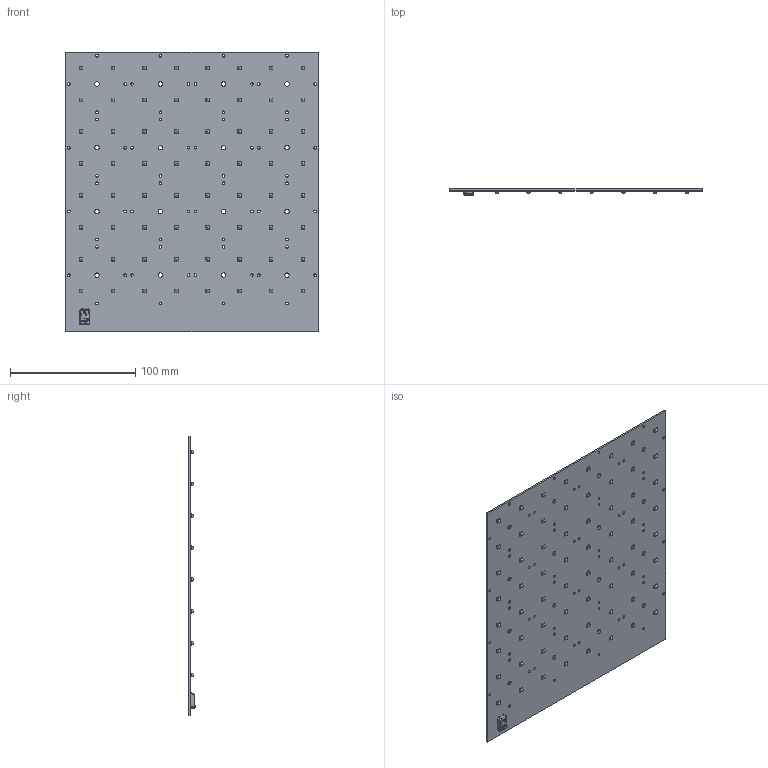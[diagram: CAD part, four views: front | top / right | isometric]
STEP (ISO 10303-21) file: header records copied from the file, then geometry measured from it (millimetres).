
FILE_DESCRIPTION(/* description */ ('Unknown'),/* implementation_level */ '2;1');
FILE_NAME(/* name */ 'RecLED 224x202mm 15200lm 8x8 Opt G1 sh-000 2019-09-06',/* time_stamp */ '2019-09-06T12:35:39+02:00',/* author */ ('Unknown'),/* organization */ ('Unknown'),/* preprocessor_version */ 'ST-DEVELOPER v16.7',/* originating_system */ 'DEX',/* authorisation */ $);
FILE_SCHEMA (('AUTOMOTIVE_DESIGN { 1 0 10303 214 3 1 1 }','AUTOMOTIVE_DESIGN {1 0 10303 214 3 1 1}'));
Products named in the file (1): RecLED 224x202mm 15200lm 8x8 Opt G1 sh-000 2019-09-06
Bounding box: 201 x 4.95 x 223 mm (x, y, z)
Volume: 67651.9 mm3; surface area: 92819.2 mm2
Topology: 1 solids, 1 shells, 2921 faces, 8034 edges, 5242 vertices
Faces by surface type: plane 1381, cylinder 1278, torus 139, bspline 87, cone 26, sphere 10
Full cylindrical faces by diameter (mm): 2.1 x64, 3.5 x16
Entity records: 114070 total; most frequent: CARTESIAN_POINT 19084, DIRECTION 15356, ORIENTED_EDGE 15198, EDGE_CURVE 7599, AXIS2_PLACEMENT_3D 5248, VERTEX_POINT 5093, LINE 4860, VECTOR 4860
